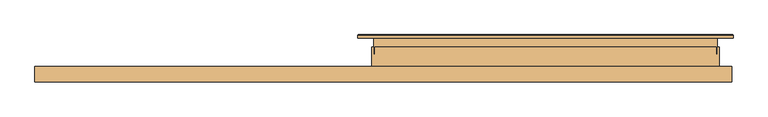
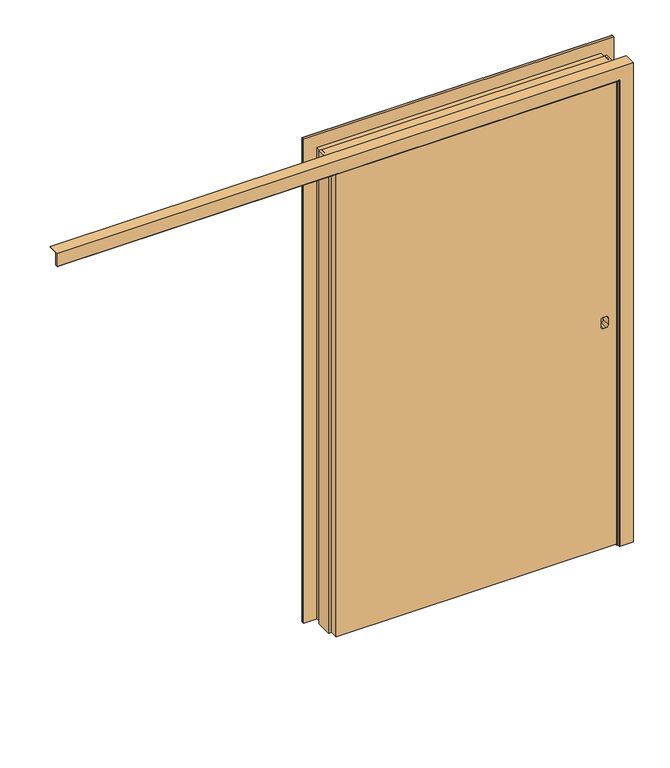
"""IFC4 building model written with IfcOpenShell, lengths in millimetres: door geometry, M_Porta-De_Correr-Pormade-Porta_Lisa : .porta correr isopainel."""

from ifc_helpers import new_model, si_unit, point, frame, frame_2d, origin, place, context, project, spatial, polyline, circle_curve, ellipse_curve, trimmed, segment, composite_curve, outline, extrude, faceted_brep, source, transform, mapped, element, save
from ifc_brep_helpers import plane_surface, cylinder_surface, advanced_brep


def door_2b51e286(model_context):
    return source(origin(), model_context, "Body", "SolidModel", [
        extrude(outline(polyline([(2105.0, -606.5), (5.0, -606.5), (5.0, 593.5), (2105.0, 593.5), (2105.0, -606.5)]), holes=[composite_curve([segment(polyline([(1039.9860517, 557.1458795), (1009.9860517, 557.1458795)]), True, "CONTINUOUS"), segment(trimmed(circle_curve(frame_2d((1009.9860517, 547.1458795)), 10.0), [point((1009.9860517, 557.1458795))], [point((999.9860517, 547.1458795))], True, "CARTESIAN"), True, "CONTINUOUS"), segment(polyline([(999.9860517, 547.1458795), (999.9860517, 537.1458795)]), True, "CONTINUOUS"), segment(trimmed(circle_curve(frame_2d((1009.9860517, 537.1458795)), 10.0), [point((999.9860517, 537.1458795))], [point((1009.9860517, 527.1458795))], True, "CARTESIAN"), True, "CONTINUOUS"), segment(polyline([(1009.9860517, 527.1458795), (1039.9860517, 527.1458795)]), True, "CONTINUOUS"), segment(trimmed(circle_curve(frame_2d((1039.9860517, 537.1458795)), 10.0), [point((1039.9860517, 527.1458795))], [point((1049.9860517, 537.1458795))], True, "CARTESIAN"), True, "CONTINUOUS"), segment(polyline([(1049.9860517, 537.1458795), (1049.9860517, 547.1458795)]), True, "CONTINUOUS"), segment(trimmed(circle_curve(frame_2d((1039.9860517, 547.1458795)), 10.0), [point((1049.9860517, 547.1458795))], [point((1039.9860517, 557.1458795))], True, "CARTESIAN"), True, "CONTINUOUS")], self_intersect=False)]), frame((0.0, -92.0, 0.0), z_axis=(0.0, 1.0, 0.0), x_axis=(0.0, 0.0, 1.0)), (0.0, 0.0, 1.0), 35.0),
        advanced_brep(
        [(598.5, -102.5, 0.0), (598.5, -92.0, 0.0), (655.0, -92.0, 0.0), (655.0, -50.0, 0.0), (658.5, -50.0, 0.0), (658.5, -104.5, 0.0), (600.5, -104.5, 0.0), (600.5, -104.5, 2108.5), (598.5, -102.5, 2106.5), (658.5, -104.5, 2166.5), (-1806.5, -104.5, 2166.5), (-1806.5, -104.5, 2108.5), (658.5, -50.0, 2166.5), (655.0, -50.0, 2163.0), (-1806.5, -50.0, 2163.0), (-1806.5, -50.0, 2166.5), (655.0, -92.0, 2163.0), (598.5, -92.0, 2106.5), (-1806.5, -92.0, 2106.5), (-1806.5, -92.0, 2163.0), (-1806.5, -102.5, 2106.5)],
        [
            (0, 1),
            (1, 2),
            (2, 3),
            (3, 4),
            (4, 5),
            (5, 6),
            (6, 0, circle_curve(frame((600.5, -102.5, 0.0), z_axis=(0.0, 0.0, -1.0), x_axis=(-1.0, 0.0, 0.0)), 2.0)),
            (6, 7),
            (7, 8, ellipse_curve(frame((600.5, -102.5, 2108.5), z_axis=(0.7071067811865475, 0.0, -0.7071067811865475), x_axis=(-0.7071067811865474, 0.0, -0.7071067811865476)), 2.8284271, 2.0)),
            (8, 0),
            (5, 9),
            (9, 10),
            (10, 11),
            (11, 7),
            (4, 12),
            (12, 9),
            (3, 13),
            (13, 14),
            (14, 15),
            (15, 12),
            (2, 16),
            (16, 13),
            (1, 17),
            (17, 18),
            (18, 19),
            (19, 16),
            (8, 17),
            (20, 11, circle_curve(frame((-1806.5, -102.5, 2108.5), z_axis=(-1.0, 0.0, 0.0), x_axis=(0.0, 0.0, -1.0)), 2.0)),
            (10, 15),
            (14, 19),
            (18, 20),
            (20, 8),
        ],
        [
            plane_surface(frame((658.5, -50.0, 0.0), z_axis=(0.0, 0.0, -1.0), x_axis=(0.0, 1.0, 0.0))),
            cylinder_surface(frame((600.5, -102.5, 0.0), z_axis=(0.0, 0.0, -1.0), x_axis=(-1.0, 0.0, 0.0)), 2.0),
            plane_surface(frame((600.5, -104.5, 0.0), z_axis=(0.0, -1.0, 0.0), x_axis=(0.0, 0.0, 1.0))),
            plane_surface(frame((658.5, -104.5, 0.0), z_axis=(1.0, 0.0, 0.0), x_axis=(0.0, 0.0, 1.0))),
            plane_surface(frame((658.5, -50.0, 0.0), z_axis=(0.0, 1.0, 0.0), x_axis=(0.0, 0.0, 1.0))),
            plane_surface(frame((655.0, -50.0, 0.0), z_axis=(-1.0, 0.0, 0.0), x_axis=(0.0, 0.0, 1.0))),
            plane_surface(frame((655.0, -92.0, 0.0), z_axis=(0.0, 1.0, 0.0), x_axis=(0.0, 0.0, 1.0))),
            plane_surface(frame((598.5, -92.0, 0.0), z_axis=(-1.0, 0.0, 0.0), x_axis=(0.0, 0.0, 1.0))),
            plane_surface(frame((-1806.5, -50.0, 2166.5), z_axis=(-1.0, 0.0, 0.0), x_axis=(0.0, 1.0, 0.0))),
            cylinder_surface(frame((658.5, -102.5, 2108.5), z_axis=(1.0, 0.0, 0.0), x_axis=(0.0, 0.0, -1.0)), 2.0),
            plane_surface(frame((658.5, -104.5, 2166.5), z_axis=(0.0, 0.0, 1.0), x_axis=(-1.0, 0.0, 0.0))),
            plane_surface(frame((655.0, -50.0, 2163.0), z_axis=(0.0, 0.0, -1.0), x_axis=(-1.0, 0.0, 0.0))),
            plane_surface(frame((598.5, -92.0, 2106.5), z_axis=(0.0, 0.0, -1.0), x_axis=(-1.0, 0.0, 0.0))),
        ],
        [
            (0, [[1, 2, 3, 4, 5, 6, 7]]),
            (1, [[8, 9, 10, -7]]),
            (2, [[11, 12, 13, 14, -8, -6]]),
            (3, [[15, 16, -11, -5]]),
            (4, [[17, 18, 19, 20, -15, -4]]),
            (5, [[21, 22, -17, -3]]),
            (6, [[23, 24, 25, 26, -21, -2]]),
            (7, [[-10, 27, -23, -1]]),
            (8, [[28, -13, 29, -19, 30, -25, 31]]),
            (9, [[-14, -28, 32, -9]]),
            (10, [[-20, -29, -12, -16]]),
            (11, [[-26, -30, -18, -22]]),
            (12, [[-32, -31, -24, -27]]),
        ],
    ),
        advanced_brep(
        [(663.75, 60.5, 0.0), (663.75, 50.0, 0.0), (607.25, 50.0, 0.0), (607.25, 5.0, 0.0), (603.75, 5.0, 0.0), (603.75, 60.5, 0.0), (605.75, 62.5, 0.0), (661.75, 62.5, 0.0), (661.75, 62.5, 2188.0), (663.75, 60.5, 2190.0), (605.75, 62.5, 2132.0), (-605.75, 62.5, 2132.0), (-605.75, 62.5, 0.0), (-661.75, 62.5, 0.0), (-661.75, 62.5, 2188.0), (603.75, 60.5, 2130.0), (603.75, 5.0, 2130.0), (607.25, 5.0, 2133.5), (-607.25, 5.0, 2133.5), (-607.25, 5.0, 0.0), (-603.75, 5.0, 0.0), (-603.75, 5.0, 2130.0), (607.25, 50.0, 2133.5), (663.75, 50.0, 2190.0), (-663.75, 50.0, 2190.0), (-663.75, 50.0, 0.0), (-607.25, 50.0, 0.0), (-607.25, 50.0, 2133.5), (-663.75, 60.5, 2190.0), (-603.75, 60.5, 2130.0), (-663.75, 60.5, 0.0), (-603.75, 60.5, 0.0)],
        [
            (0, 1),
            (1, 2),
            (2, 3),
            (3, 4),
            (4, 5),
            (5, 6, circle_curve(frame((605.75, 60.5, 0.0), z_axis=(0.0, 0.0, -1.0), x_axis=(0.0, 1.0, 0.0)), 2.0)),
            (6, 7),
            (7, 0, circle_curve(frame((661.75, 60.5, 0.0), z_axis=(0.0, 0.0, -1.0), x_axis=(0.0, 1.0, 0.0)), 2.0)),
            (7, 8),
            (8, 9, ellipse_curve(frame((661.75, 60.5, 2188.0), z_axis=(0.7071067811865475, 0.0, -0.7071067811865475), x_axis=(-0.7071067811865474, 0.0, -0.7071067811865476)), 2.8284271, 2.0)),
            (9, 0),
            (6, 10),
            (10, 11),
            (11, 12),
            (12, 13),
            (13, 14),
            (14, 8),
            (5, 15),
            (15, 10, ellipse_curve(frame((605.75, 60.5, 2132.0), z_axis=(0.7071067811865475, 0.0, -0.7071067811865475), x_axis=(-0.7071067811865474, 0.0, -0.7071067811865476)), 2.8284271, 2.0)),
            (4, 16),
            (16, 15),
            (3, 17),
            (17, 18),
            (18, 19),
            (19, 20),
            (20, 21),
            (21, 16),
            (2, 22),
            (22, 17),
            (1, 23),
            (23, 24),
            (24, 25),
            (25, 26),
            (26, 27),
            (27, 22),
            (9, 23),
            (14, 28, ellipse_curve(frame((-661.75, 60.5, 2188.0), z_axis=(0.7071067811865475, 0.0, 0.7071067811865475), x_axis=(0.7071067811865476, 0.0, -0.7071067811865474)), 2.8284271, 2.0)),
            (28, 9),
            (15, 29),
            (29, 11, ellipse_curve(frame((-605.75, 60.5, 2132.0), z_axis=(0.7071067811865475, 0.0, 0.7071067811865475), x_axis=(0.7071067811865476, 0.0, -0.7071067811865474)), 2.8284271, 2.0)),
            (21, 29),
            (27, 18),
            (28, 24),
            (30, 13, circle_curve(frame((-661.75, 60.5, 0.0), z_axis=(0.0, 0.0, -1.0), x_axis=(0.0, 1.0, 0.0)), 2.0)),
            (12, 31, circle_curve(frame((-605.75, 60.5, 0.0), z_axis=(0.0, 0.0, -1.0), x_axis=(0.0, 1.0, 0.0)), 2.0)),
            (31, 20),
            (19, 26),
            (25, 30),
            (30, 28),
            (29, 31),
        ],
        [
            plane_surface(frame((603.75, 50.0, 0.0), z_axis=(0.0, 0.0, -1.0), x_axis=(0.0, 1.0, 0.0))),
            cylinder_surface(frame((661.75, 60.5, 0.0), z_axis=(0.0, 0.0, -1.0), x_axis=(0.0, 1.0, 0.0)), 2.0),
            plane_surface(frame((661.75, 62.5, 0.0), z_axis=(0.0, 1.0, 0.0), x_axis=(0.0, 0.0, 1.0))),
            cylinder_surface(frame((605.75, 60.5, 0.0), z_axis=(0.0, 0.0, -1.0), x_axis=(0.0, 1.0, 0.0)), 2.0),
            plane_surface(frame((603.75, 60.5, 0.0), z_axis=(-1.0, 0.0, 0.0), x_axis=(0.0, 0.0, 1.0))),
            plane_surface(frame((603.75, 5.0, 0.0), z_axis=(0.0, -1.0, 0.0), x_axis=(0.0, 0.0, 1.0))),
            plane_surface(frame((607.25, 5.0, 0.0), z_axis=(1.0, 0.0, 0.0), x_axis=(0.0, 0.0, 1.0))),
            plane_surface(frame((607.25, 50.0, 0.0), z_axis=(0.0, -1.0, 0.0), x_axis=(0.0, 0.0, 1.0))),
            plane_surface(frame((663.75, 50.0, 0.0), z_axis=(1.0, 0.0, 0.0), x_axis=(0.0, 0.0, 1.0))),
            cylinder_surface(frame((603.75, 60.5, 2188.0), z_axis=(1.0, 0.0, 0.0), x_axis=(0.0, 1.0, 0.0)), 2.0),
            cylinder_surface(frame((603.75, 60.5, 2132.0), z_axis=(1.0, 0.0, 0.0), x_axis=(0.0, 1.0, 0.0)), 2.0),
            plane_surface(frame((603.75, 60.5, 2130.0), z_axis=(0.0, 0.0, -1.0), x_axis=(-1.0, 0.0, 0.0))),
            plane_surface(frame((607.25, 5.0, 2133.5), z_axis=(0.0, 0.0, 1.0), x_axis=(-1.0, 0.0, 0.0))),
            plane_surface(frame((663.75, 50.0, 2190.0), z_axis=(0.0, 0.0, 1.0), x_axis=(-1.0, 0.0, 0.0))),
            plane_surface(frame((-603.75, 50.0, 0.0), z_axis=(0.0, 0.0, -1.0), x_axis=(0.0, 1.0, 0.0))),
            cylinder_surface(frame((-661.75, 60.5, 2130.0), z_axis=(0.0, 0.0, 1.0), x_axis=(0.0, 1.0, 0.0)), 2.0),
            cylinder_surface(frame((-605.75, 60.5, 2130.0), z_axis=(0.0, 0.0, 1.0), x_axis=(0.0, 1.0, 0.0)), 2.0),
            plane_surface(frame((-603.75, 60.5, 2130.0), z_axis=(1.0, 0.0, 0.0), x_axis=(0.0, 0.0, -1.0))),
            plane_surface(frame((-607.25, 5.0, 2133.5), z_axis=(-1.0, 0.0, 0.0), x_axis=(0.0, 0.0, -1.0))),
            plane_surface(frame((-663.75, 50.0, 2190.0), z_axis=(-1.0, 0.0, 0.0), x_axis=(0.0, 0.0, -1.0))),
        ],
        [
            (0, [[1, 2, 3, 4, 5, 6, 7, 8]]),
            (1, [[9, 10, 11, -8]]),
            (2, [[12, 13, 14, 15, 16, 17, -9, -7]]),
            (3, [[18, 19, -12, -6]]),
            (4, [[20, 21, -18, -5]]),
            (5, [[22, 23, 24, 25, 26, 27, -20, -4]]),
            (6, [[28, 29, -22, -3]]),
            (7, [[30, 31, 32, 33, 34, 35, -28, -2]]),
            (8, [[-11, 36, -30, -1]]),
            (9, [[-17, 37, 38, -10]]),
            (10, [[39, 40, -13, -19]]),
            (11, [[-27, 41, -39, -21]]),
            (12, [[-35, 42, -23, -29]]),
            (13, [[-38, 43, -31, -36]]),
            (14, [[44, -15, 45, 46, -25, 47, -33, 48]]),
            (15, [[-16, -44, 49, -37]]),
            (16, [[50, -45, -14, -40]]),
            (17, [[-26, -46, -50, -41]]),
            (18, [[-34, -47, -24, -42]]),
            (19, [[-49, -48, -32, -43]]),
        ],
    ),
        faceted_brep([(-615.5, -50.0, 2142.0), (593.5, -50.0, 2142.0), (593.5, -92.0, 2142.0), (615.5, -92.0, 2142.0), (615.5, 18.0, 2142.0), (607.5, 18.0, 2142.0), (607.5, -8.0, 2142.0), (603.75, -8.0, 2142.0), (603.75, 18.0, 2142.0), (-603.5, 18.0, 2142.0), (-603.5, -8.0, 2142.0), (-607.5, -8.0, 2142.0), (-607.5, 18.0, 2142.0), (-615.5, 18.0, 2142.0), (-583.5, 18.0, 0.0), (-583.5, -50.0, 0.0), (-615.5, -50.0, 0.0), (-615.5, 18.0, 0.0), (-607.5, 18.0, 0.0), (-607.5, -8.0, 0.0), (-603.5, -8.0, 0.0), (-603.5, 18.0, 0.0), (583.5, 18.0, 0.0), (603.75, 18.0, 0.0), (603.75, -8.0, 0.0), (607.5, -8.0, 0.0), (607.5, 18.0, 0.0), (615.5, 18.0, 0.0), (615.5, -92.0, 0.0), (593.5, -92.0, 0.0), (593.5, -50.0, 0.0), (583.5, -50.0, 0.0), (-583.5, 18.0, 2110.0), (-583.5, -50.0, 2110.0), (-583.5, 18.0, 2134.0), (-583.5, -7.0, 2134.0), (-583.5, -7.0, 2130.0), (-583.5, 18.0, 2130.0), (583.5, -50.0, 2110.0), (-603.5, -8.0, 2110.0), (583.5, 18.0, 2110.0), (583.5, 18.0, 2130.0), (583.5, 18.0, 2134.0), (603.75, -8.0, 2110.0), (583.5, -7.0, 2130.0), (583.5, -7.0, 2134.0)], [[[0, 1, 2, 3, 4, 5, 6, 7, 8, 9, 10, 11, 12, 13]], [[14, 15, 16, 17, 18, 19, 20, 21]], [[22, 23, 24, 25, 26, 27, 28, 29, 30, 31]], [[14, 32, 33, 15]], [[34, 35, 36, 37]], [[15, 33, 38, 31, 30, 1, 0, 16]], [[13, 17, 16, 0]], [[12, 18, 17, 13]], [[11, 19, 18, 12]], [[10, 39, 20, 19, 11]], [[21, 20, 39, 10, 9]], [[8, 23, 22, 40, 32, 14, 21, 9], [34, 37, 41, 42]], [[7, 43, 24, 23, 8]], [[6, 25, 24, 43, 7]], [[5, 26, 25, 6]], [[4, 27, 26, 5]], [[4, 3, 28, 27]], [[31, 38, 40, 22]], [[41, 44, 45, 42]], [[2, 29, 28, 3]], [[30, 29, 2, 1]], [[37, 36, 44, 41]], [[36, 35, 45, 44]], [[42, 45, 35, 34]], [[40, 38, 33, 32]]]),
    ])


if __name__ == "__main__":
    model = new_model("IFC4")
    model_context = context("Model", 3, world=origin())
    ifc_project = project(units=[si_unit("LENGTHUNIT", "METRE", prefix="MILLI")], contexts=[model_context])
    site = spatial("IfcSite", under=ifc_project)
    building = spatial("IfcBuilding", under=site)
    placement = place(None, origin())
    door_shape = door_2b51e286(model_context)
    element("IfcDoor", 1, ObjectType="M_Porta-De_Correr-Pormade-Porta_Lisa : .porta correr isopainel", at=placement, inside=building, context=model_context, shape_type="MappedRepresentation", body=[
        mapped(door_shape, transform((0.0, 0.0, 0.0), x_axis=(1.0, 0.0, 0.0), y_axis=(0.0, 1.0, 0.0), z_axis=(0.0, 0.0, 1.0))),
    ])
    save(model, "model.ifc")
